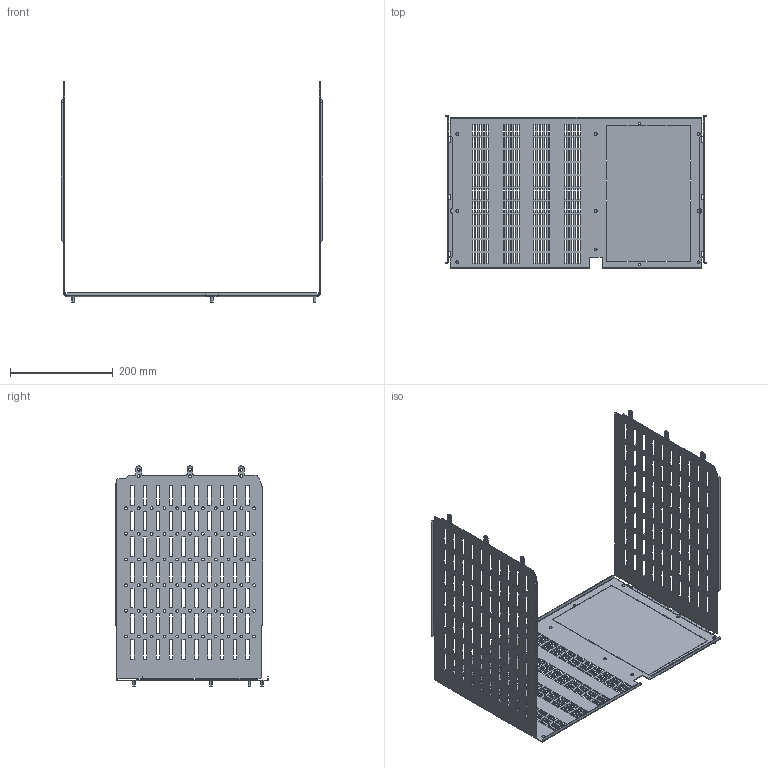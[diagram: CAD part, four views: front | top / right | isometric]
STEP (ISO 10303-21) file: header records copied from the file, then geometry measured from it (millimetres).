
FILE_DESCRIPTION(('CAx-IF Rec.Pracs.---Model Styling and Organization---1.2---2011-12-15','CAx-IF Rec.Pracs.---Geometric and Assembly Validation Properties---4.1---2014-06-16','CAx-IF Rec.Pracs.---PMI Polyline Presentation---2.0---2013-05-24'),'2;1');
FILE_NAME('R5M2WPV6M.stp','2021-05-05T13:02:29+03:00',(''),(''),'STEP Interface 4.4 by CT CoreTechnologie','3D_Evolution4.4 by CT CoreTechnologie','');
FILE_SCHEMA(('AUTOMOTIVE_DESIGN { 1 0 10303 214 1 1 1 1 }'));
Length unit declared in the file: millimetre
Products named in the file (5): R5M2WPV6M; RB.1285.00.00.0_-13; M5x8-DIN7500C_stright; RB.1600.00.00.0_-04; RB.1285.00.00.0_-12
Assembly tree (12 placements, depth 2):
  R5M2WPV6M
    RB.1285.00.00.0_-13
    M5x8-DIN7500C_stright  x9
    RB.1600.00.00.0_-04
    RB.1285.00.00.0_-12
Bounding box: 510 x 297.5 x 429.1 mm (x, y, z)
Surface area: 699107.3 mm2 (no closed solid volume)
Topology: 0 solids, 14 shells, 2078 faces, 6198 edges, 4136 vertices
Faces by surface type: plane 1692, cylinder 386
Entity records: 70894 total; most frequent: CARTESIAN_POINT 12313, ORIENTED_EDGE 12300, DIRECTION 11012, EDGE_CURVE 6150, VECTOR 5406, LINE 5406, VERTEX_POINT 4104, EDGE_LOOP 3112
